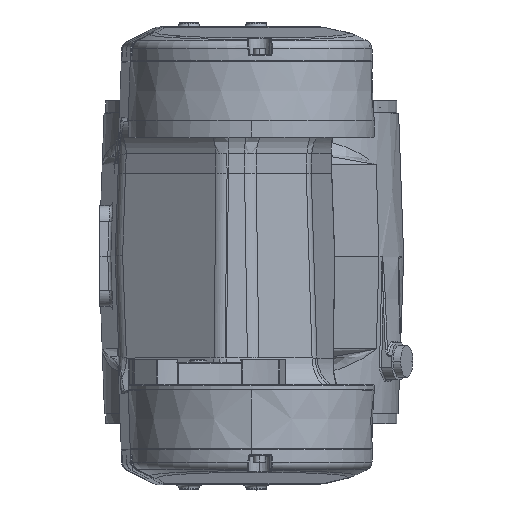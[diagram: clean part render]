
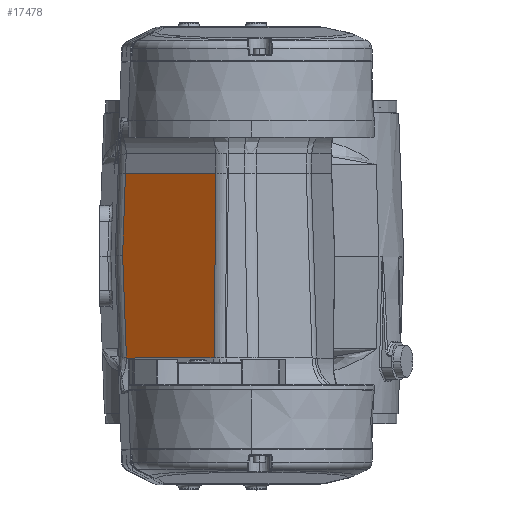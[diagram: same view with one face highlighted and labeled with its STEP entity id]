
A CAD part, top view. The second image highlights one B-rep face of the part: STEP entity #17478.
In plain terms, the highlighted planar face has unit normal (-0.599, 0.035, 0.8).
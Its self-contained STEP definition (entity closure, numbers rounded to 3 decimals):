
#1684 = VECTOR ( 'NONE', #37790, 1000. ) ;
#3565 = EDGE_CURVE ( 'NONE', #28627, #39097, #49014, .T. ) ;
#4653 = VERTEX_POINT ( 'NONE', #8836 ) ;
#4783 = VECTOR ( 'NONE', #13896, 1000. ) ;
#6442 = CARTESIAN_POINT ( 'NONE',  ( 132.787, 49., 977.586 ) ) ;
#8836 = CARTESIAN_POINT ( 'NONE',  ( 75.79, -60.698, 939.691 ) ) ;
#9348 = DIRECTION ( 'NONE',  ( 0.599, -0.035, -0.8 ) ) ;
#9637 = DIRECTION ( 'NONE',  ( -0.037, 0.997, -0.071 ) ) ;
#13547 = CARTESIAN_POINT ( 'NONE',  ( 75.237, 49., 934.491 ) ) ;
#13896 = DIRECTION ( 'NONE',  ( -0.8, 0., -0.599 ) ) ;
#15060 = CARTESIAN_POINT ( 'NONE',  ( 128.984, 49., 974.739 ) ) ;
#15087 = VERTEX_POINT ( 'NONE', #16340 ) ;
#16340 = CARTESIAN_POINT ( 'NONE',  ( 128.984, 49., 974.739 ) ) ;
#17478 = ADVANCED_FACE ( 'NONE', ( #51411 ), #42202, .F. ) ;
#18775 = LINE ( 'NONE', #15060, #1684 ) ;
#19173 = DIRECTION ( 'NONE',  ( -0.8, 0., -0.599 ) ) ;
#20444 = ORIENTED_EDGE ( 'NONE', *, *, #3565, .F. ) ;
#22210 = CARTESIAN_POINT ( 'NONE',  ( 130.49, -60.698, 980.653 ) ) ;
#22410 = VECTOR ( 'NONE', #9637, 1000. ) ;
#24663 = CARTESIAN_POINT ( 'NONE',  ( 73.547, 0.384, 935.347 ) ) ;
#26197 = ORIENTED_EDGE ( 'NONE', *, *, #26794, .F. ) ;
#26794 = EDGE_CURVE ( 'NONE', #15087, #60487, #18775, .T. ) ;
#28627 = VERTEX_POINT ( 'NONE', #37642 ) ;
#28886 = DIRECTION ( 'NONE',  ( 0.8, 0., 0.599 ) ) ;
#28936 = EDGE_CURVE ( 'NONE', #4653, #28627, #55403, .T. ) ;
#29911 = EDGE_LOOP ( 'NONE', ( #57771, #59569, #26197, #56049, #20444 ) ) ;
#32066 = CARTESIAN_POINT ( 'NONE',  ( 73.649, -2.394, 935.544 ) ) ;
#32906 = LINE ( 'NONE', #22210, #4783 ) ;
#34160 = CARTESIAN_POINT ( 'NONE',  ( 75.237, 49., 934.491 ) ) ;
#34393 = LINE ( 'NONE', #6442, #50640 ) ;
#36695 = CARTESIAN_POINT ( 'NONE',  ( 131.761, 0., 978.956 ) ) ;
#37023 = CARTESIAN_POINT ( 'NONE',  ( 74.673, 32.795, 934.776 ) ) ;
#37642 = CARTESIAN_POINT ( 'NONE',  ( 73.547, 0.384, 935.347 ) ) ;
#37790 = DIRECTION ( 'NONE',  ( -0.01, -0.999, 0.036 ) ) ;
#39097 = VERTEX_POINT ( 'NONE', #13547 ) ;
#39655 = EDGE_CURVE ( 'NONE', #39097, #15087, #34393, .T. ) ;
#42202 = PLANE ( 'NONE',  #59059 ) ;
#49014 = B_SPLINE_CURVE_WITH_KNOTS ( 'NONE', 3,
 ( #24663, #52577, #37023, #34160 ),
 .UNSPECIFIED., .F., .F.,
 ( 4, 4 ),
 ( 0., 1. ),
 .UNSPECIFIED. ) ;
#50640 = VECTOR ( 'NONE', #28886, 1000. ) ;
#51411 = FACE_OUTER_BOUND ( 'NONE', #29911, .T. ) ;
#52577 = CARTESIAN_POINT ( 'NONE',  ( 74.11, 16.589, 935.061 ) ) ;
#55403 = LINE ( 'NONE', #32066, #22410 ) ;
#56049 = ORIENTED_EDGE ( 'NONE', *, *, #39655, .F. ) ;
#56407 = CARTESIAN_POINT ( 'NONE',  ( 127.835, -60.698, 978.664 ) ) ;
#57771 = ORIENTED_EDGE ( 'NONE', *, *, #28936, .F. ) ;
#58189 = EDGE_CURVE ( 'NONE', #60487, #4653, #32906, .T. ) ;
#59059 = AXIS2_PLACEMENT_3D ( 'NONE', #36695, #9348, #19173 ) ;
#59569 = ORIENTED_EDGE ( 'NONE', *, *, #58189, .F. ) ;
#60487 = VERTEX_POINT ( 'NONE', #56407 ) ;
